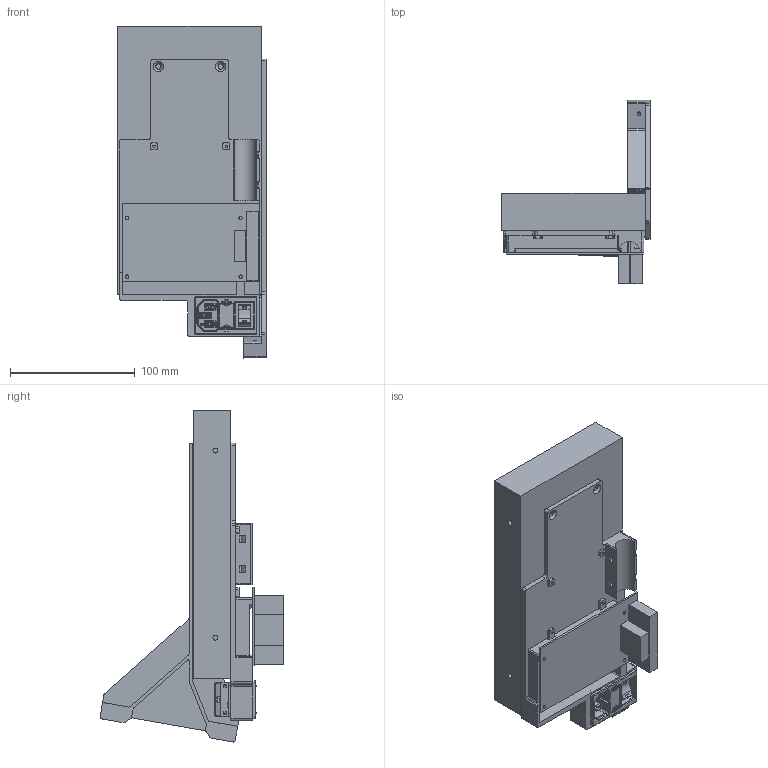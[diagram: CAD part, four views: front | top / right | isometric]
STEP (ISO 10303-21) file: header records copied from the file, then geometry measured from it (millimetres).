
FILE_DESCRIPTION(/* description */ (''),/* implementation_level */ '2;1');
FILE_NAME(/* name */ 'C:/Dropbox/cba/circuits/2020-08_psu-breakout/cad/2021-08-29_PSU-350-System-Head.step',/* time_stamp */ '2021-08-29T18:19:34-04:00',/* author */ (''),/* organization */ (''),/* preprocessor_version */ 'ST-DEVELOPER v18.1',/* originating_system */ 'Autodesk Translation Framework v10.10.0.1391',/* authorisation */ '');
FILE_SCHEMA (('AUTOMOTIVE_DESIGN { 1 0 10303 214 3 1 1 }'));
Products named in the file (5): PSU-350 System Head; PCB System Head 2021-08-26; MW-LRS-350; PSU-350 Vertical Desk; 486-1965-ND
Assembly tree (4 placements, depth 2):
  PSU-350 System Head
    PCB System Head 2021-08-26
    MW-LRS-350
    PSU-350 Vertical Desk
    486-1965-ND
Bounding box: 119 x 147.45 x 266.27 mm (x, y, z)
Volume: 907853.9 mm3; surface area: 201799.5 mm2
Topology: 5 solids, 5 shells, 1532 faces, 4318 edges, 2767 vertices
Faces by surface type: plane 1037, cylinder 298, bspline 127, cone 30, torus 24, sphere 16
Full cylindrical faces by diameter (mm): 1.4 x5, 2 x4, 2.5 x1, 2.6 x1, 2.7 x8, 3 x3, 3.5 x1, 4 x4, 4.25 x6, 4.5 x4, 14 x2, 52 x1
Entity records: 55615 total; most frequent: CARTESIAN_POINT 16224, ORIENTED_EDGE 8600, DIRECTION 7494, EDGE_CURVE 4300, LINE 3288, VECTOR 3288, VERTEX_POINT 2767, AXIS2_PLACEMENT_3D 2103
